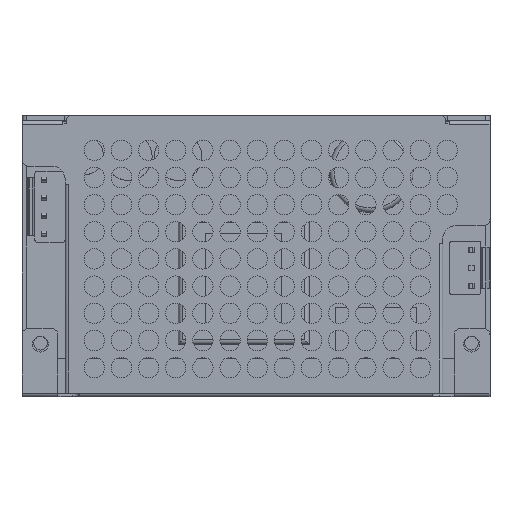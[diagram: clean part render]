
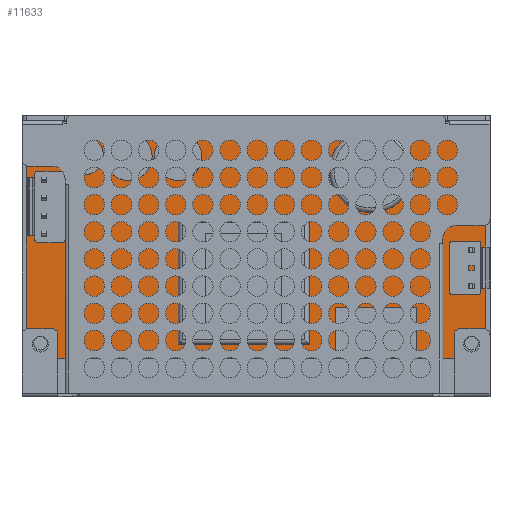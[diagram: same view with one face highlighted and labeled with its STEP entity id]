
A CAD part, top view. The second image highlights one B-rep face of the part: STEP entity #11633.
In plain terms, the highlighted planar face has unit normal (0, 0, 1).
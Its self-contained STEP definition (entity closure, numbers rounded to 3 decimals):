
#10891=CARTESIAN_POINT('',(100.,158.8,0.0));
#10892=VERTEX_POINT('',#10891);
#10893=CARTESIAN_POINT('',(201.6,158.8,0.0));
#10894=VERTEX_POINT('',#10893);
#10895=CARTESIAN_POINT('',(100.,158.8,0.0));
#10896=DIRECTION('',(1.0,0.0,0.0));
#10897=VECTOR('',#10896,101.6);
#10898=LINE('',#10895,#10897);
#10899=EDGE_CURVE('',#10892,#10894,#10898,.T.);
#10931=CARTESIAN_POINT('',(201.6,108.,0.0));
#10932=VERTEX_POINT('',#10931);
#10933=CARTESIAN_POINT('',(201.6,158.8,0.0));
#10934=DIRECTION('',(0.0,-1.0,0.0));
#10935=VECTOR('',#10934,50.8);
#10936=LINE('',#10933,#10935);
#10937=EDGE_CURVE('',#10894,#10932,#10936,.T.);
#10962=CARTESIAN_POINT('',(100.,108.,0.0));
#10963=VERTEX_POINT('',#10962);
#10964=CARTESIAN_POINT('',(201.6,108.,0.0));
#10965=DIRECTION('',(-1.0,0.0,0.0));
#10966=VECTOR('',#10965,101.6);
#10967=LINE('',#10964,#10966);
#10968=EDGE_CURVE('',#10932,#10963,#10967,.T.);
#10993=CARTESIAN_POINT('',(100.,108.,0.0));
#10994=DIRECTION('',(0.0,1.0,0.0));
#10995=VECTOR('',#10994,50.8);
#10996=LINE('',#10993,#10995);
#10997=EDGE_CURVE('',#10963,#10892,#10996,.T.);
#11074=CARTESIAN_POINT('',(104.94,111.17,0.0));
#11075=VERTEX_POINT('',#11074);
#11076=CARTESIAN_POINT('',(103.19,111.17,0.0));
#11077=DIRECTION('',(0.0,0.0,1.0));
#11078=DIRECTION('',(1.0,0.0,0.0));
#11079=AXIS2_PLACEMENT_3D('',#11076,#11077,#11078);
#11080=CIRCLE('',#11079,1.75);
#11081=EDGE_CURVE('',#11075,#11075,#11080,.T.);
#11094=CARTESIAN_POINT('',(200.175,155.625,0.0));
#11095=VERTEX_POINT('',#11094);
#11096=CARTESIAN_POINT('',(198.425,155.625,0.0));
#11097=DIRECTION('',(0.0,0.0,1.0));
#11098=DIRECTION('',(1.0,0.0,0.0));
#11099=AXIS2_PLACEMENT_3D('',#11096,#11097,#11098);
#11100=CIRCLE('',#11099,1.75);
#11101=EDGE_CURVE('',#11095,#11095,#11100,.T.);
#11114=CARTESIAN_POINT('',(200.175,111.175,0.0));
#11115=VERTEX_POINT('',#11114);
#11116=CARTESIAN_POINT('',(198.425,111.175,0.0));
#11117=DIRECTION('',(0.0,0.0,1.0));
#11118=DIRECTION('',(1.0,0.0,0.0));
#11119=AXIS2_PLACEMENT_3D('',#11116,#11117,#11118);
#11120=CIRCLE('',#11119,1.75);
#11121=EDGE_CURVE('',#11115,#11115,#11120,.T.);
#11134=CARTESIAN_POINT('',(104.925,155.625,0.0));
#11135=VERTEX_POINT('',#11134);
#11136=CARTESIAN_POINT('',(103.175,155.625,0.0));
#11137=DIRECTION('',(0.0,0.0,1.0));
#11138=DIRECTION('',(1.0,0.0,0.0));
#11139=AXIS2_PLACEMENT_3D('',#11136,#11137,#11138);
#11140=CIRCLE('',#11139,1.75);
#11141=EDGE_CURVE('',#11135,#11135,#11140,.T.);
#11162=CARTESIAN_POINT('',(134.589,117.377,0.0));
#11163=VERTEX_POINT('',#11162);
#11164=CARTESIAN_POINT('',(125.339,117.377,0.0));
#11165=DIRECTION('',(0.0,0.0,1.0));
#11166=DIRECTION('',(1.0,0.0,0.0));
#11167=AXIS2_PLACEMENT_3D('',#11164,#11165,#11166);
#11168=CIRCLE('',#11167,9.25);
#11169=EDGE_CURVE('',#11163,#11163,#11168,.T.);
#11208=CARTESIAN_POINT('',(133.312,147.5,0.0));
#11209=VERTEX_POINT('',#11208);
#11210=CARTESIAN_POINT('',(133.312,158.5,0.0));
#11211=VERTEX_POINT('',#11210);
#11212=CARTESIAN_POINT('',(133.312,147.5,0.0));
#11213=DIRECTION('',(0.0,1.0,0.0));
#11214=VECTOR('',#11213,11.);
#11215=LINE('',#11212,#11214);
#11216=EDGE_CURVE('',#11209,#11211,#11215,.T.);
#11248=CARTESIAN_POINT('',(115.312,158.5,0.0));
#11249=VERTEX_POINT('',#11248);
#11250=CARTESIAN_POINT('',(133.312,158.5,0.0));
#11251=DIRECTION('',(-1.0,0.0,0.0));
#11252=VECTOR('',#11251,18.);
#11253=LINE('',#11250,#11252);
#11254=EDGE_CURVE('',#11211,#11249,#11253,.T.);
#11279=CARTESIAN_POINT('',(115.312,147.5,0.0));
#11280=VERTEX_POINT('',#11279);
#11281=CARTESIAN_POINT('',(115.312,158.5,0.0));
#11282=DIRECTION('',(0.0,-1.0,0.0));
#11283=VECTOR('',#11282,11.);
#11284=LINE('',#11281,#11283);
#11285=EDGE_CURVE('',#11249,#11280,#11284,.T.);
#11310=CARTESIAN_POINT('',(115.312,147.5,0.0));
#11311=DIRECTION('',(1.0,0.0,0.0));
#11312=VECTOR('',#11311,18.);
#11313=LINE('',#11310,#11312);
#11314=EDGE_CURVE('',#11280,#11209,#11313,.T.);
#11344=CARTESIAN_POINT('',(145.062,152.25,0.0));
#11345=VERTEX_POINT('',#11344);
#11346=CARTESIAN_POINT('',(145.062,131.25,0.0));
#11347=VERTEX_POINT('',#11346);
#11348=CARTESIAN_POINT('',(145.062,152.25,0.0));
#11349=DIRECTION('',(0.0,-1.0,0.0));
#11350=VECTOR('',#11349,21.);
#11351=LINE('',#11348,#11350);
#11352=EDGE_CURVE('',#11345,#11347,#11351,.T.);
#11384=CARTESIAN_POINT('',(162.062,152.25,0.0));
#11385=VERTEX_POINT('',#11384);
#11386=CARTESIAN_POINT('',(162.062,152.25,0.0));
#11387=DIRECTION('',(-1.0,0.0,0.0));
#11388=VECTOR('',#11387,17.);
#11389=LINE('',#11386,#11388);
#11390=EDGE_CURVE('',#11385,#11345,#11389,.T.);
#11415=CARTESIAN_POINT('',(162.062,131.25,0.0));
#11416=VERTEX_POINT('',#11415);
#11417=CARTESIAN_POINT('',(162.062,131.25,0.0));
#11418=DIRECTION('',(0.0,1.0,0.0));
#11419=VECTOR('',#11418,21.);
#11420=LINE('',#11417,#11419);
#11421=EDGE_CURVE('',#11416,#11385,#11420,.T.);
#11446=CARTESIAN_POINT('',(145.062,131.25,0.0));
#11447=DIRECTION('',(1.0,0.0,0.0));
#11448=VECTOR('',#11447,17.);
#11449=LINE('',#11446,#11448);
#11450=EDGE_CURVE('',#11347,#11416,#11449,.T.);
#11491=CARTESIAN_POINT('',(173.25,114.25,0.0));
#11492=VERTEX_POINT('',#11491);
#11493=CARTESIAN_POINT('',(168.,114.25,0.0));
#11494=DIRECTION('',(0.0,0.0,1.0));
#11495=DIRECTION('',(1.0,0.0,0.0));
#11496=AXIS2_PLACEMENT_3D('',#11493,#11494,#11495);
#11497=CIRCLE('',#11496,5.25);
#11498=EDGE_CURVE('',#11492,#11492,#11497,.T.);
#11528=CARTESIAN_POINT('',(193.,114.,0.0));
#11529=VERTEX_POINT('',#11528);
#11530=CARTESIAN_POINT('',(188.75,114.,0.0));
#11531=DIRECTION('',(0.0,0.0,1.0));
#11532=DIRECTION('',(1.0,0.0,0.0));
#11533=AXIS2_PLACEMENT_3D('',#11530,#11531,#11532);
#11534=CIRCLE('',#11533,4.25);
#11535=EDGE_CURVE('',#11529,#11529,#11534,.T.);
#11574=CARTESIAN_POINT('',(184.25,114.25,0.0));
#11575=VERTEX_POINT('',#11574);
#11576=CARTESIAN_POINT('',(179.,114.25,0.0));
#11577=DIRECTION('',(0.0,0.0,1.0));
#11578=DIRECTION('',(1.0,0.0,0.0));
#11579=AXIS2_PLACEMENT_3D('',#11576,#11577,#11578);
#11580=CIRCLE('',#11579,5.25);
#11581=EDGE_CURVE('',#11575,#11575,#11580,.T.);
#11586=CARTESIAN_POINT('',(0.0,0.0,0.0));
#11587=DIRECTION('',(0.0,0.0,1.0));
#11588=DIRECTION('',(1.0,0.0,0.0));
#11589=AXIS2_PLACEMENT_3D('',#11586,#11587,#11588);
#11590=PLANE('',#11589);
#11591=ORIENTED_EDGE('',*,*,#10899,.F.);
#11592=ORIENTED_EDGE('',*,*,#10997,.F.);
#11593=ORIENTED_EDGE('',*,*,#10968,.F.);
#11594=ORIENTED_EDGE('',*,*,#10937,.F.);
#11595=EDGE_LOOP('',(#11591,#11592,#11593,#11594));
#11596=FACE_OUTER_BOUND('',#11595,.T.);
#11597=ORIENTED_EDGE('',*,*,#11081,.F.);
#11598=EDGE_LOOP('',(#11597));
#11599=FACE_BOUND('',#11598,.T.);
#11600=ORIENTED_EDGE('',*,*,#11101,.F.);
#11601=EDGE_LOOP('',(#11600));
#11602=FACE_BOUND('',#11601,.T.);
#11603=ORIENTED_EDGE('',*,*,#11169,.F.);
#11604=EDGE_LOOP('',(#11603));
#11605=FACE_BOUND('',#11604,.T.);
#11606=ORIENTED_EDGE('',*,*,#11314,.F.);
#11607=ORIENTED_EDGE('',*,*,#11285,.F.);
#11608=ORIENTED_EDGE('',*,*,#11254,.F.);
#11609=ORIENTED_EDGE('',*,*,#11216,.F.);
#11610=EDGE_LOOP('',(#11606,#11607,#11608,#11609));
#11611=FACE_BOUND('',#11610,.T.);
#11612=ORIENTED_EDGE('',*,*,#11390,.F.);
#11613=ORIENTED_EDGE('',*,*,#11421,.F.);
#11614=ORIENTED_EDGE('',*,*,#11450,.F.);
#11615=ORIENTED_EDGE('',*,*,#11352,.F.);
#11616=EDGE_LOOP('',(#11612,#11613,#11614,#11615));
#11617=FACE_BOUND('',#11616,.T.);
#11618=ORIENTED_EDGE('',*,*,#11498,.F.);
#11619=EDGE_LOOP('',(#11618));
#11620=FACE_BOUND('',#11619,.T.);
#11621=ORIENTED_EDGE('',*,*,#11535,.F.);
#11622=EDGE_LOOP('',(#11621));
#11623=FACE_BOUND('',#11622,.T.);
#11624=ORIENTED_EDGE('',*,*,#11141,.F.);
#11625=EDGE_LOOP('',(#11624));
#11626=FACE_BOUND('',#11625,.T.);
#11627=ORIENTED_EDGE('',*,*,#11581,.F.);
#11628=EDGE_LOOP('',(#11627));
#11629=FACE_BOUND('',#11628,.T.);
#11630=ORIENTED_EDGE('',*,*,#11121,.F.);
#11631=EDGE_LOOP('',(#11630));
#11632=FACE_BOUND('',#11631,.T.);
#11633=ADVANCED_FACE('',(#11596,#11599,#11602,#11605,#11611,#11617,#11620,#11623,#11626,#11629,#11632),#11590,.T.);
